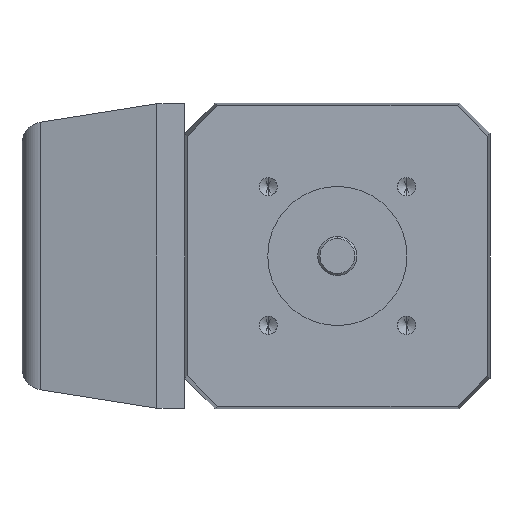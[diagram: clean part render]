
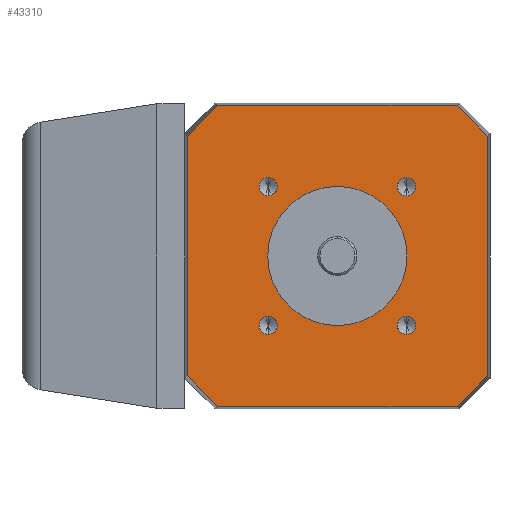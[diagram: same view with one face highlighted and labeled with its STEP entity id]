
A CAD part, left-side view. The second image highlights one B-rep face of the part: STEP entity #43310.
In plain terms, the highlighted planar face has unit normal (-1, 0, 0) as drawn and (0, 0, 1) by its records, which use the part's own axes.
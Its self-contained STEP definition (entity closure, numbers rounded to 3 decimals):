
#40590=CARTESIAN_POINT('',(-168.021,-322.038,110.5));
#40600=VERTEX_POINT('',#40590);
#40630=CARTESIAN_POINT('',(-200.108,-289.951,110.5));
#40640=DIRECTION('',(-0.707,0.707,0.));
#40650=VECTOR('',#40640,1.);
#40660=LINE('',#40630,#40650);
#40670=CARTESIAN_POINT('',(-161.019,-329.041,110.5));
#40680=VERTEX_POINT('',#40670);
#40690=EDGE_CURVE('',#40680,#40600,#40660,.T.);
#40900=CARTESIAN_POINT('',(-98.895,-322.038,110.5));
#40910=VERTEX_POINT('',#40900);
#40940=CARTESIAN_POINT('',(-98.895,-289.951,110.5));
#40950=DIRECTION('',(0.,1.,0.));
#40960=VECTOR('',#40950,1.);
#40970=LINE('',#40940,#40960);
#40980=CARTESIAN_POINT('',(-98.895,-266.917,110.5));
#40990=VERTEX_POINT('',#40980);
#41000=EDGE_CURVE('',#40910,#40990,#40970,.T.);
#41160=CARTESIAN_POINT('',(-130.81,-235.001,110.5));
#41170=DIRECTION('',(-0.707,0.707,0.));
#41180=VECTOR('',#41170,1.);
#41190=LINE('',#41160,#41180);
#41200=CARTESIAN_POINT('',(-105.897,-259.914,110.5));
#41210=VERTEX_POINT('',#41200);
#41220=EDGE_CURVE('',#40990,#41210,#41190,.T.);
#41440=CARTESIAN_POINT('',(-161.019,-259.914,110.5));
#41450=VERTEX_POINT('',#41440);
#41500=CARTESIAN_POINT('',(-130.81,-259.914,110.5));
#41510=DIRECTION('',(-1.,0.,0.));
#41520=VECTOR('',#41510,1.);
#41530=LINE('',#41500,#41520);
#41540=EDGE_CURVE('',#41210,#41450,#41530,.T.);
#41680=CARTESIAN_POINT('',(-168.021,-266.917,110.5));
#41690=VERTEX_POINT('',#41680);
#41740=CARTESIAN_POINT('',(-191.055,-289.951,110.5));
#41750=DIRECTION('',(0.707,0.707,0.));
#41760=VECTOR('',#41750,1.);
#41770=LINE('',#41740,#41760);
#41780=EDGE_CURVE('',#41690,#41450,#41770,.T.);
#41890=CARTESIAN_POINT('',(-168.021,-289.951,110.5));
#41900=DIRECTION('',(0.,-1.,0.));
#41910=VECTOR('',#41900,1.);
#41920=LINE('',#41890,#41910);
#41930=EDGE_CURVE('',#41690,#40600,#41920,.T.);
#42090=CARTESIAN_POINT('',(-105.897,-329.041,110.5));
#42100=VERTEX_POINT('',#42090);
#42150=CARTESIAN_POINT('',(-130.81,-329.041,110.5));
#42160=DIRECTION('',(1.,0.,0.));
#42170=VECTOR('',#42160,1.);
#42180=LINE('',#42150,#42170);
#42190=EDGE_CURVE('',#40680,#42100,#42180,.T.);
#42320=CARTESIAN_POINT('',(-66.807,-289.951,110.5));
#42330=DIRECTION('',(-0.707,-0.707,0.));
#42340=VECTOR('',#42330,1.);
#42350=LINE('',#42320,#42340);
#42360=EDGE_CURVE('',#40910,#42100,#42350,.T.);
#42410=CARTESIAN_POINT('',(-107.905,-278.165,110.5));
#42420=DIRECTION('',(0.,0.,1.));
#42430=DIRECTION('',(1.,0.,0.));
#42440=AXIS2_PLACEMENT_3D('',#42410,#42420,#42430);
#42450=PLANE('',#42440);
#42460=ORIENTED_EDGE('',*,*,#40690,.F.);
#42470=ORIENTED_EDGE('',*,*,#41930,.T.);
#42480=ORIENTED_EDGE('',*,*,#41780,.F.);
#42490=ORIENTED_EDGE('',*,*,#41540,.T.);
#42500=ORIENTED_EDGE('',*,*,#41220,.T.);
#42510=ORIENTED_EDGE('',*,*,#41000,.T.);
#42520=ORIENTED_EDGE('',*,*,#42360,.F.);
#42530=ORIENTED_EDGE('',*,*,#42190,.T.);
#42540=EDGE_LOOP('',(#42530,#42520,#42510,#42500,#42490,#42480,#42470,
#42460));
#42550=FACE_OUTER_BOUND('',#42540,.T.);
#42560=CARTESIAN_POINT('',(-133.458,-294.477,110.5));
#42570=DIRECTION('',(0.,0.,1.));
#42580=DIRECTION('',(1.,0.,0.));
#42590=AXIS2_PLACEMENT_3D('',#42560,#42570,#42580);
#42600=CIRCLE('',#42590,16.);
#42610=CARTESIAN_POINT('',(-149.458,-294.477,110.5));
#42620=VERTEX_POINT('',#42610);
#42630=CARTESIAN_POINT('',(-117.458,-294.477,110.5));
#42640=VERTEX_POINT('',#42630);
#42650=EDGE_CURVE('',#42620,#42640,#42600,.T.);
#42660=ORIENTED_EDGE('',*,*,#42650,.F.);
#42670=EDGE_CURVE('',#42640,#42620,#42600,.T.);
#42680=ORIENTED_EDGE('',*,*,#42670,.F.);
#42690=EDGE_LOOP('',(#42680,#42660));
#42700=FACE_BOUND('',#42690,.T.);
#42710=CARTESIAN_POINT('',(-117.548,-278.568,110.5));
#42720=DIRECTION('',(0.,0.,1.));
#42730=DIRECTION('',(1.,0.,0.));
#42740=AXIS2_PLACEMENT_3D('',#42710,#42720,#42730);
#42750=CIRCLE('',#42740,2.1);
#42760=CARTESIAN_POINT('',(-119.648,-278.568,110.5));
#42770=VERTEX_POINT('',#42760);
#42780=CARTESIAN_POINT('',(-115.448,-278.568,110.5));
#42790=VERTEX_POINT('',#42780);
#42800=EDGE_CURVE('',#42770,#42790,#42750,.T.);
#42810=ORIENTED_EDGE('',*,*,#42800,.F.);
#42820=EDGE_CURVE('',#42790,#42770,#42750,.T.);
#42830=ORIENTED_EDGE('',*,*,#42820,.F.);
#42840=EDGE_LOOP('',(#42830,#42810));
#42850=FACE_BOUND('',#42840,.T.);
#42860=CARTESIAN_POINT('',(-149.368,-278.568,110.5));
#42870=DIRECTION('',(0.,0.,1.));
#42880=DIRECTION('',(0.,1.,0.));
#42890=AXIS2_PLACEMENT_3D('',#42860,#42870,#42880);
#42900=CIRCLE('',#42890,2.1);
#42910=CARTESIAN_POINT('',(-149.368,-276.468,110.5));
#42920=VERTEX_POINT('',#42910);
#42930=CARTESIAN_POINT('',(-149.368,-280.668,110.5));
#42940=VERTEX_POINT('',#42930);
#42950=EDGE_CURVE('',#42920,#42940,#42900,.T.);
#42960=ORIENTED_EDGE('',*,*,#42950,.F.);
#42970=EDGE_CURVE('',#42940,#42920,#42900,.T.);
#42980=ORIENTED_EDGE('',*,*,#42970,.F.);
#42990=EDGE_LOOP('',(#42980,#42960));
#43000=FACE_BOUND('',#42990,.T.);
#43010=CARTESIAN_POINT('',(-149.368,-310.387,110.5));
#43020=DIRECTION('',(0.,0.,1.));
#43030=DIRECTION('',(-1.,0.,0.));
#43040=AXIS2_PLACEMENT_3D('',#43010,#43020,#43030);
#43050=CIRCLE('',#43040,2.1);
#43060=CARTESIAN_POINT('',(-151.468,-310.387,110.5));
#43070=VERTEX_POINT('',#43060);
#43080=CARTESIAN_POINT('',(-147.268,-310.387,110.5));
#43090=VERTEX_POINT('',#43080);
#43100=EDGE_CURVE('',#43070,#43090,#43050,.T.);
#43110=ORIENTED_EDGE('',*,*,#43100,.F.);
#43120=EDGE_CURVE('',#43090,#43070,#43050,.T.);
#43130=ORIENTED_EDGE('',*,*,#43120,.F.);
#43140=EDGE_LOOP('',(#43130,#43110));
#43150=FACE_BOUND('',#43140,.T.);
#43160=CARTESIAN_POINT('',(-117.548,-310.387,110.5));
#43170=DIRECTION('',(0.,0.,1.));
#43180=DIRECTION('',(0.,-1.,0.));
#43190=AXIS2_PLACEMENT_3D('',#43160,#43170,#43180);
#43200=CIRCLE('',#43190,2.1);
#43210=CARTESIAN_POINT('',(-117.548,-312.487,110.5));
#43220=VERTEX_POINT('',#43210);
#43230=CARTESIAN_POINT('',(-117.548,-308.287,110.5));
#43240=VERTEX_POINT('',#43230);
#43250=EDGE_CURVE('',#43220,#43240,#43200,.T.);
#43260=ORIENTED_EDGE('',*,*,#43250,.F.);
#43270=EDGE_CURVE('',#43240,#43220,#43200,.T.);
#43280=ORIENTED_EDGE('',*,*,#43270,.F.);
#43290=EDGE_LOOP('',(#43280,#43260));
#43300=FACE_BOUND('',#43290,.T.);
#43310=ADVANCED_FACE('',(#42550,#42700,#42850,#43000,#43150,#43300),
#42450,.T.);
